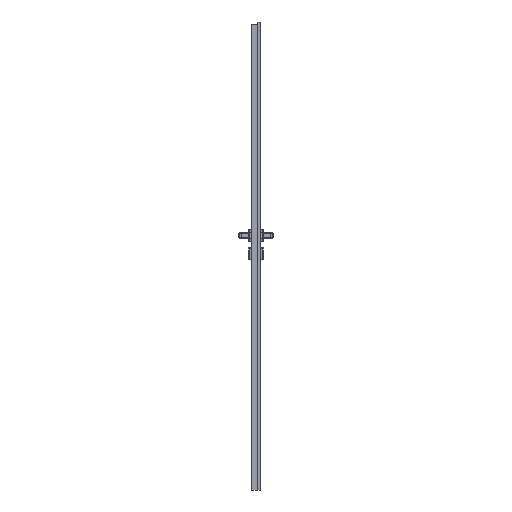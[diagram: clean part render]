
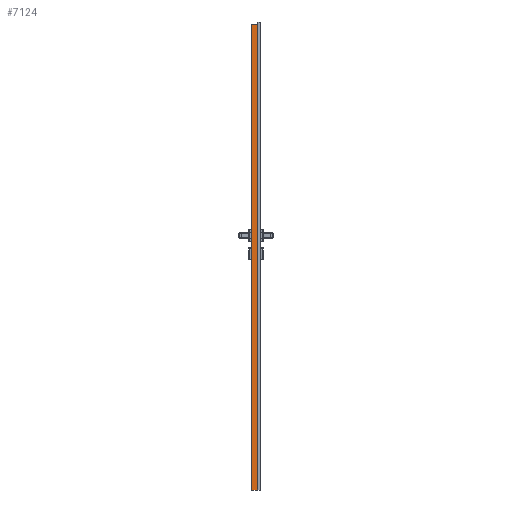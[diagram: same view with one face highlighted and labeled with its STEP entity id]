
A CAD part, left-side view. The second image highlights one B-rep face of the part: STEP entity #7124.
In plain terms, the highlighted planar face has unit normal (-1, 0, 0).
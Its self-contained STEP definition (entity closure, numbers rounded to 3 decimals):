
#4604=FACE_OUTER_BOUND('',#12860,.T.);
#7124=ADVANCED_FACE('',(#4604),#8615,.F.);
#8615=PLANE('',#49379);
#10129=CIRCLE('',#48966,1.48);
#12860=EDGE_LOOP('',(#24367,#24368,#24369,#24370,#24371));
#24367=ORIENTED_EDGE('',*,*,#36813,.F.);
#24368=ORIENTED_EDGE('',*,*,#36122,.T.);
#24369=ORIENTED_EDGE('',*,*,#36114,.T.);
#24370=ORIENTED_EDGE('',*,*,#36814,.F.);
#24371=ORIENTED_EDGE('',*,*,#36805,.T.);
#30130=VERTEX_POINT('',#78553);
#30131=VERTEX_POINT('',#78554);
#30137=VERTEX_POINT('',#78569);
#30598=VERTEX_POINT('',#80472);
#30599=VERTEX_POINT('',#80474);
#36114=EDGE_CURVE('',#30130,#30131,#40970,.T.);
#36122=EDGE_CURVE('',#30137,#30130,#10129,.T.);
#36805=EDGE_CURVE('',#30599,#30598,#41390,.T.);
#36813=EDGE_CURVE('',#30137,#30598,#41393,.T.);
#36814=EDGE_CURVE('',#30599,#30131,#41394,.T.);
#40970=LINE('',#78552,#44918);
#41390=LINE('',#80473,#45338);
#41393=LINE('',#80495,#45341);
#41394=LINE('',#80497,#45342);
#44918=VECTOR('',#59085,1.);
#45338=VECTOR('',#60317,1.);
#45341=VECTOR('',#60340,1.);
#45342=VECTOR('',#60343,1.);
#48966=AXIS2_PLACEMENT_3D('',#78568,#59098,#59099);
#49379=AXIS2_PLACEMENT_3D('',#80498,#60344,#60345);
#59085=DIRECTION('',(0.,1.,0.));
#59098=DIRECTION('',(1.,0.,0.));
#59099=DIRECTION('',(0.,0.,1.));
#60317=DIRECTION('',(0.,-1.,0.));
#60340=DIRECTION('',(0.,0.,-1.));
#60343=DIRECTION('',(0.,0.,1.));
#60344=DIRECTION('',(1.,0.,0.));
#60345=DIRECTION('',(0.,0.,-1.));
#78552=CARTESIAN_POINT('',(-309.,0.,2017.02));
#78553=CARTESIAN_POINT('',(-309.,-24.2,2017.02));
#78554=CARTESIAN_POINT('',(-309.,-1.65,2017.02));
#78568=CARTESIAN_POINT('',(-309.,-24.2,2018.5));
#78569=CARTESIAN_POINT('',(-309.,-24.647,2017.079));
#80472=CARTESIAN_POINT('',(-309.,-24.65,0.));
#80473=CARTESIAN_POINT('',(-309.,-24.65,0.));
#80474=CARTESIAN_POINT('',(-309.,-1.65,0.));
#80495=CARTESIAN_POINT('',(-309.,-24.65,0.));
#80497=CARTESIAN_POINT('',(-309.,-1.65,0.));
#80498=CARTESIAN_POINT('',(-309.,-24.65,0.));
